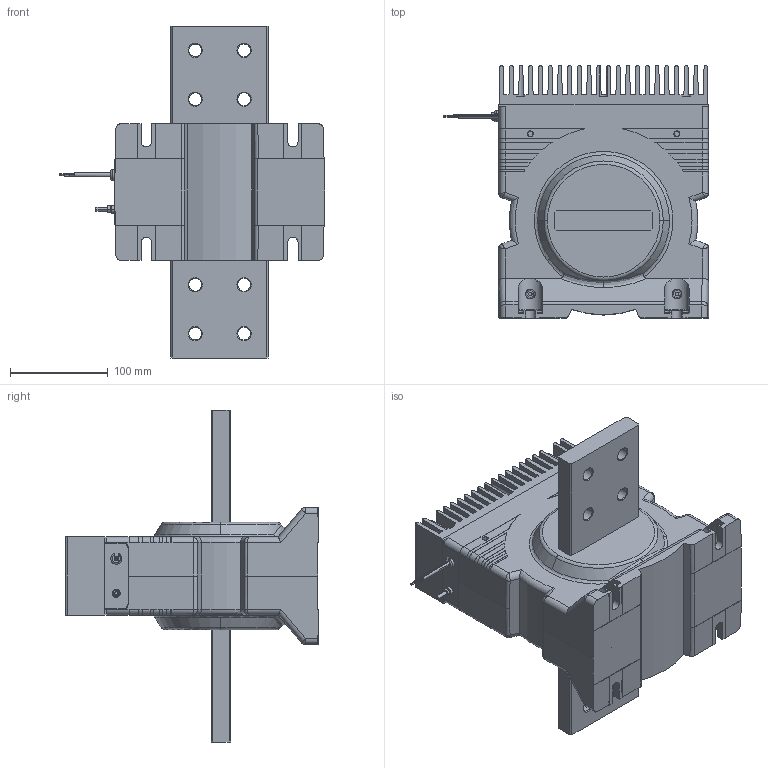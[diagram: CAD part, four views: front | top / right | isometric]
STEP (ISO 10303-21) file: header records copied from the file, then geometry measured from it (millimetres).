
FILE_DESCRIPTION(('Creo Elements/Direct Modeling STEP Export'),'2;1');
FILE_NAME('BLACKBOX_LT4000-T-SP40.stp','2018-01-05T14:22:34',(''),(''),'PTC Creo Elements/Direct Modeling STEP processor for AP214 (Solid Model)','PTC Creo Elements/Direct Modeling 19.0B 21-Mar-2015 (C) Parametric Technology GmbH','');
FILE_SCHEMA(('AUTOMOTIVE_DESIGN { 1 0 10303 214 1 1 1 1 }'));
Length unit declared in the file: millimetre
Products named in the file (2): Boîtier
Assembly tree (1 placements, depth 2):
  Boîtier
    Boîtier
Bounding box: 271.61 x 259 x 340 mm (x, y, z)
Volume: 5100923.2 mm3; surface area: 379625 mm2
Topology: 1 solids, 32 shells, 1060 faces, 2689 edges, 1700 vertices
Faces by surface type: plane 506, cylinder 373, cone 118, bspline 40, torus 23
Entity records: 36074 total; most frequent: CARTESIAN_POINT 11659, ORIENTED_EDGE 5304, DIRECTION 4615, EDGE_CURVE 2649, VERTEX_POINT 1700, VECTOR 1555, LINE 1555, AXIS2_PLACEMENT_3D 1530
